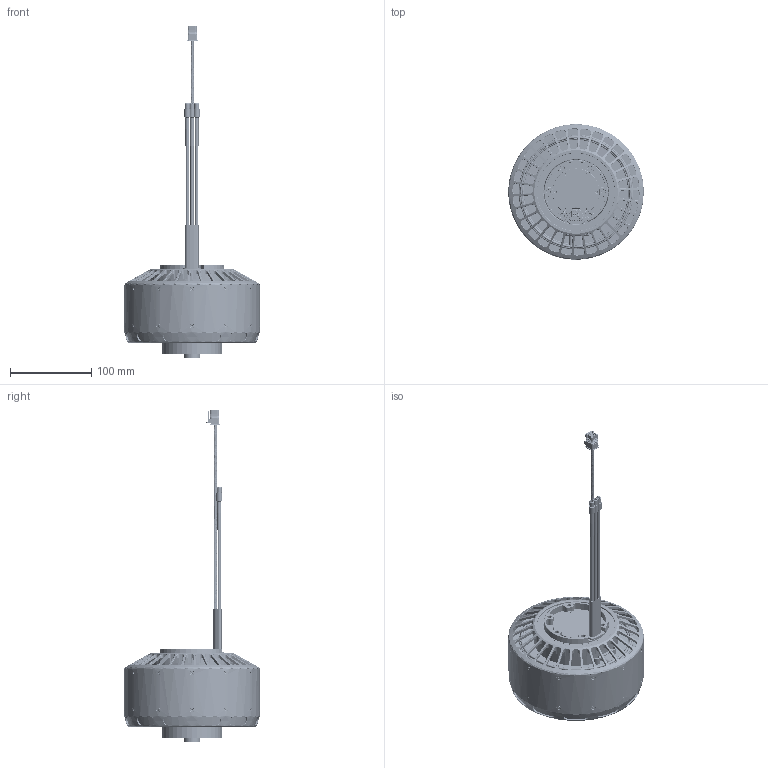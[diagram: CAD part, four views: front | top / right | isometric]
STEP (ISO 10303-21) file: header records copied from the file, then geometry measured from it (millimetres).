
FILE_DESCRIPTION (( 'STEP AP214' ), '1' );
FILE_NAME ('UAVM-P50M-15635-SILVER GRAY-G1-HW1-萇儂軞蚾芞.STEP', '2024-10-16T08:21:13', ( '' ), ( '' ), 'SwSTEP 2.0', 'SolidWorks 2021', '' );
FILE_SCHEMA (( 'AUTOMOTIVE_DESIGN' ));
Length unit declared in the file: millimetre
Products named in the file (1): UAVM-P50M-15635-SILVER GRAY-G1-HW1-萇儂軞蚾芞
Bounding box: 167.1 x 167.1 x 409.58 mm (x, y, z)
Volume: 1701559.7 mm3; surface area: 177082.3 mm2
Topology: 36 solids, 81 shells, 6078 faces, 15658 edges, 9741 vertices
Faces by surface type: plane 2976, cylinder 1785, bspline 790, cone 436, torus 78, sphere 13
Full cylindrical faces by diameter (mm): 1.101 x16, 1.501 x8, 2.5 x12, 2.6 x3, 2.8 x12, 4 x17, 4.7 x3, 4.8 x6, 5 x36, 5.9 x3, 6.9 x6, 7.7 x3, 10 x6, 11 x6, 17 x1, 18 x1, 18.5 x1, 20 x1, 74 x1, 84.5 x2, 86 x1, 94 x1, 95.7 x2, 96 x1, 100 x1, 103 x1, 157.1 x1, 162.2 x1, 167.1 x1
Entity records: 345629 total; most frequent: CARTESIAN_POINT 142339, ORIENTED_EDGE 29986, DIRECTION 26020, EDGE_CURVE 14993, VERTEX_POINT 9480, AXIS2_PLACEMENT_3D 8782, VECTOR 8456, LINE 8456
